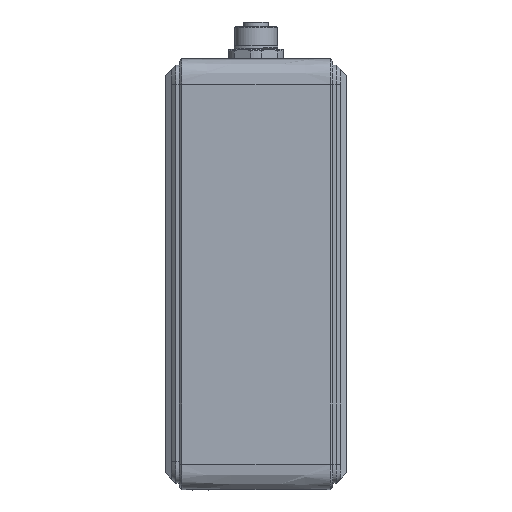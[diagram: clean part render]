
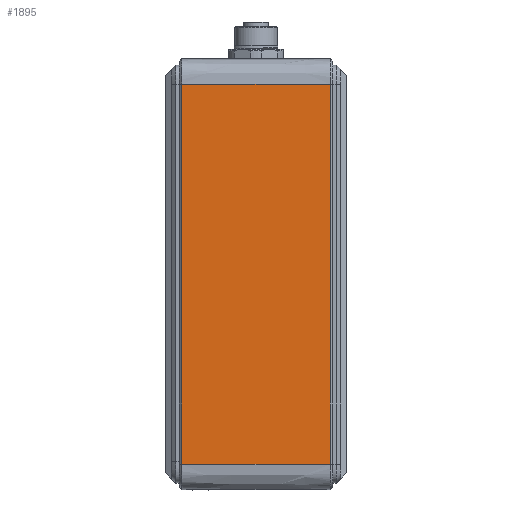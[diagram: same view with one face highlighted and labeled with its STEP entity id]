
A CAD part, left-side view. The second image highlights one B-rep face of the part: STEP entity #1895.
In plain terms, the highlighted planar face has unit normal (-1, 0, 0).
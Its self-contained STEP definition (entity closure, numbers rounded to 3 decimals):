
#1895=ADVANCED_FACE('',(#2712),#14072,.T.);
#2712=FACE_OUTER_BOUND('',#3564,.T.);
#3564=EDGE_LOOP('',(#4844,#4845,#4846,#4847));
#4844=ORIENTED_EDGE('',*,*,#8665,.F.);
#4845=ORIENTED_EDGE('',*,*,#8666,.F.);
#4846=ORIENTED_EDGE('',*,*,#8667,.F.);
#4847=ORIENTED_EDGE('',*,*,#8664,.F.);
#8664=EDGE_CURVE('',#12714,#12715,#10594,.T.);
#8665=EDGE_CURVE('',#12716,#12714,#10595,.T.);
#8666=EDGE_CURVE('',#12717,#12716,#10596,.T.);
#8667=EDGE_CURVE('',#12715,#12717,#10597,.T.);
#10594=B_SPLINE_CURVE_WITH_KNOTS('',3,(#34287,#34288,#34289,#34290),
 .UNSPECIFIED.,.F.,.F.,(4,4),(-46.4,0.),.UNSPECIFIED.);
#10595=B_SPLINE_CURVE_WITH_KNOTS('',1,(#34291,#34292),.UNSPECIFIED.,.F.,
 .F.,(2,2),(-119.,0.),.UNSPECIFIED.);
#10596=B_SPLINE_CURVE_WITH_KNOTS('',3,(#34293,#34294,#34295,#34296),
 .UNSPECIFIED.,.F.,.F.,(4,4),(-46.4,0.),.UNSPECIFIED.);
#10597=B_SPLINE_CURVE_WITH_KNOTS('',1,(#34297,#34298),.UNSPECIFIED.,.F.,
 .F.,(2,2),(-119.,0.),.UNSPECIFIED.);
#12714=VERTEX_POINT('',#31032);
#12715=VERTEX_POINT('',#31033);
#12716=VERTEX_POINT('',#31034);
#12717=VERTEX_POINT('',#31035);
#14072=PLANE('',#14596);
#14596=AXIS2_PLACEMENT_3D('',#16160,#15222,$);
#15222=DIRECTION('',(-1.,0.,0.));
#16160=CARTESIAN_POINT('',(-125.,-27.84,71.4));
#31032=CARTESIAN_POINT('',(-125.,-23.2,-59.5));
#31033=CARTESIAN_POINT('',(-125.,23.2,-59.5));
#31034=CARTESIAN_POINT('',(-125.,-23.2,59.5));
#31035=CARTESIAN_POINT('',(-125.,23.2,59.5));
#34287=CARTESIAN_POINT('',(-125.,-23.2,-59.5));
#34288=CARTESIAN_POINT('',(-125.,-7.733,-59.5));
#34289=CARTESIAN_POINT('',(-125.,7.733,-59.5));
#34290=CARTESIAN_POINT('',(-125.,23.2,-59.5));
#34291=CARTESIAN_POINT('',(-125.,-23.2,59.5));
#34292=CARTESIAN_POINT('',(-125.,-23.2,-59.5));
#34293=CARTESIAN_POINT('',(-125.,23.2,59.5));
#34294=CARTESIAN_POINT('',(-125.,7.733,59.5));
#34295=CARTESIAN_POINT('',(-125.,-7.733,59.5));
#34296=CARTESIAN_POINT('',(-125.,-23.2,59.5));
#34297=CARTESIAN_POINT('',(-125.,23.2,-59.5));
#34298=CARTESIAN_POINT('',(-125.,23.2,59.5));
